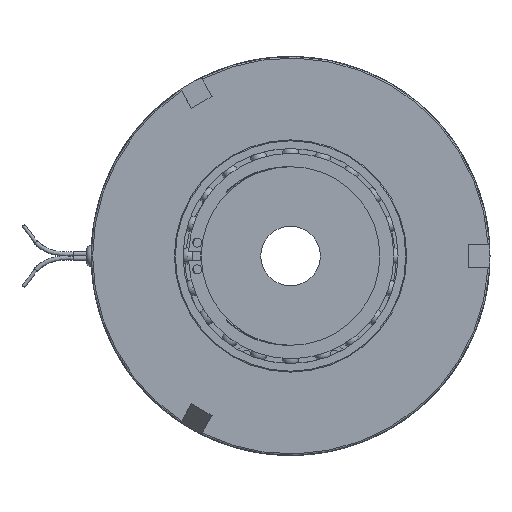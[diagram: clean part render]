
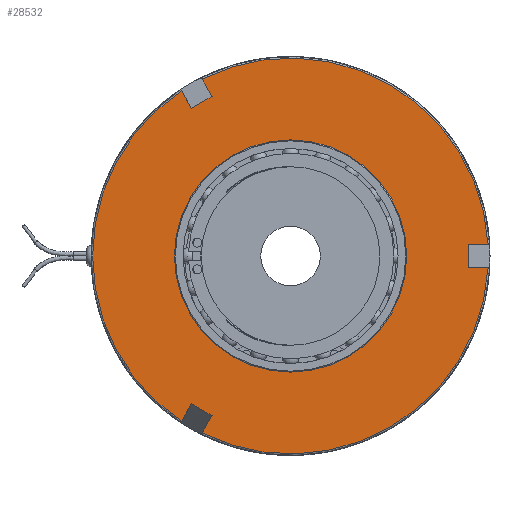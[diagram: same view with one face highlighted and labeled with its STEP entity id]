
A CAD part, left-side view. The second image highlights one B-rep face of the part: STEP entity #28532.
In plain terms, the highlighted planar face has unit normal (-1, 0, 0).
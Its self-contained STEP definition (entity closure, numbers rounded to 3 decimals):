
#2192=FACE_BOUND('',#5575,.T.);
#2351=PLANE('',#30444);
#3825=FACE_OUTER_BOUND('',#5574,.T.);
#5574=EDGE_LOOP('',(#20197,#20198,#20199,#20200,#20201,#20202,#20203,#20204,
#20205,#20206,#20207,#20208));
#5575=EDGE_LOOP('',(#20209));
#7377=CIRCLE('',#30445,66.5);
#7378=CIRCLE('',#30446,66.5);
#7379=CIRCLE('',#30447,66.5);
#7380=CIRCLE('',#30448,39.);
#8248=LINE('',#48403,#9782);
#8251=LINE('',#48422,#9785);
#8253=LINE('',#48426,#9787);
#8255=LINE('',#48442,#9789);
#8258=LINE('',#48461,#9792);
#8260=LINE('',#48465,#9794);
#8262=LINE('',#48483,#9796);
#8263=LINE('',#48485,#9797);
#8264=LINE('',#48487,#9798);
#9782=VECTOR('',#35455,6.744);
#9785=VECTOR('',#35462,8.);
#9787=VECTOR('',#35466,6.744);
#9789=VECTOR('',#35470,6.744);
#9792=VECTOR('',#35477,8.);
#9794=VECTOR('',#35481,6.744);
#9796=VECTOR('',#35489,6.744);
#9797=VECTOR('',#35490,8.);
#9798=VECTOR('',#35491,6.744);
#11822=VERTEX_POINT('',#48401);
#11823=VERTEX_POINT('',#48402);
#11827=VERTEX_POINT('',#48421);
#11828=VERTEX_POINT('',#48425);
#11830=VERTEX_POINT('',#48440);
#11831=VERTEX_POINT('',#48441);
#11835=VERTEX_POINT('',#48460);
#11836=VERTEX_POINT('',#48464);
#11838=VERTEX_POINT('',#48480);
#11839=VERTEX_POINT('',#48482);
#11840=VERTEX_POINT('',#48484);
#11841=VERTEX_POINT('',#48486);
#11842=VERTEX_POINT('',#48489);
#15070=EDGE_CURVE('',#11822,#11823,#8248,.T.);
#15075=EDGE_CURVE('',#11827,#11822,#8251,.T.);
#15077=EDGE_CURVE('',#11828,#11827,#8253,.T.);
#15080=EDGE_CURVE('',#11830,#11831,#8255,.T.);
#15085=EDGE_CURVE('',#11835,#11830,#8258,.T.);
#15087=EDGE_CURVE('',#11836,#11835,#8260,.T.);
#15090=EDGE_CURVE('',#11836,#11823,#7377,.T.);
#15091=EDGE_CURVE('',#11838,#11831,#7378,.T.);
#15092=EDGE_CURVE('',#11838,#11839,#8262,.T.);
#15093=EDGE_CURVE('',#11839,#11840,#8263,.T.);
#15094=EDGE_CURVE('',#11840,#11841,#8264,.T.);
#15095=EDGE_CURVE('',#11828,#11841,#7379,.T.);
#15096=EDGE_CURVE('',#11842,#11842,#7380,.T.);
#20197=ORIENTED_EDGE('',*,*,#15077,.T.);
#20198=ORIENTED_EDGE('',*,*,#15075,.T.);
#20199=ORIENTED_EDGE('',*,*,#15070,.T.);
#20200=ORIENTED_EDGE('',*,*,#15090,.F.);
#20201=ORIENTED_EDGE('',*,*,#15087,.T.);
#20202=ORIENTED_EDGE('',*,*,#15085,.T.);
#20203=ORIENTED_EDGE('',*,*,#15080,.T.);
#20204=ORIENTED_EDGE('',*,*,#15091,.F.);
#20205=ORIENTED_EDGE('',*,*,#15092,.T.);
#20206=ORIENTED_EDGE('',*,*,#15093,.T.);
#20207=ORIENTED_EDGE('',*,*,#15094,.T.);
#20208=ORIENTED_EDGE('',*,*,#15095,.F.);
#20209=ORIENTED_EDGE('',*,*,#15096,.T.);
#28532=ADVANCED_FACE('',(#3825,#2192),#2351,.T.);
#30444=AXIS2_PLACEMENT_3D('',#48478,#35483,#35484);
#30445=AXIS2_PLACEMENT_3D('',#48479,#35485,#35486);
#30446=AXIS2_PLACEMENT_3D('',#48481,#35487,#35488);
#30447=AXIS2_PLACEMENT_3D('',#48488,#35492,#35493);
#30448=AXIS2_PLACEMENT_3D('',#48490,#35494,#35495);
#35455=DIRECTION('',(0.,0.5,0.866));
#35462=DIRECTION('',(0.,0.866,-0.5));
#35466=DIRECTION('',(0.,-0.5,-0.866));
#35470=DIRECTION('',(0.,0.5,-0.866));
#35477=DIRECTION('',(0.,-0.866,-0.5));
#35481=DIRECTION('',(0.,-0.5,0.866));
#35483=DIRECTION('center_axis',(-1.,0.,0.));
#35484=DIRECTION('ref_axis',(0.,0.,1.));
#35485=DIRECTION('center_axis',(1.,0.,0.));
#35486=DIRECTION('ref_axis',(0.,1.,0.));
#35487=DIRECTION('center_axis',(1.,0.,0.));
#35488=DIRECTION('ref_axis',(0.,1.,0.));
#35489=DIRECTION('',(0.,1.,0.));
#35490=DIRECTION('',(0.,0.,1.));
#35491=DIRECTION('',(0.,-1.,0.));
#35492=DIRECTION('center_axis',(1.,0.,0.));
#35493=DIRECTION('ref_axis',(0.,1.,0.));
#35494=DIRECTION('center_axis',(1.,0.,0.));
#35495=DIRECTION('ref_axis',(0.,1.,0.));
#48401=CARTESIAN_POINT('',(-25.246,33.282,49.646));
#48402=CARTESIAN_POINT('',(-25.246,36.654,55.486));
#48403=CARTESIAN_POINT('',(-25.246,26.329,37.604));
#48421=CARTESIAN_POINT('',(-25.246,26.354,53.646));
#48422=CARTESIAN_POINT('',(-25.246,49.599,40.226));
#48425=CARTESIAN_POINT('',(-25.246,29.726,59.486));
#48426=CARTESIAN_POINT('',(-25.246,19.401,41.604));
#48440=CARTESIAN_POINT('',(-25.246,26.354,-53.646));
#48441=CARTESIAN_POINT('',(-25.246,29.726,-59.486));
#48442=CARTESIAN_POINT('',(-25.246,19.401,-41.604));
#48460=CARTESIAN_POINT('',(-25.246,33.282,-49.646));
#48461=CARTESIAN_POINT('',(-25.246,49.599,-40.226));
#48464=CARTESIAN_POINT('',(-25.246,36.654,-55.486));
#48465=CARTESIAN_POINT('',(-25.246,26.329,-37.604));
#48478=CARTESIAN_POINT('Origin',(-25.246,52.75,0.));
#48479=CARTESIAN_POINT('Origin',(-25.246,0.,
0.));
#48480=CARTESIAN_POINT('',(-25.246,-66.38,-4.));
#48481=CARTESIAN_POINT('Origin',(-25.246,0.,
0.));
#48482=CARTESIAN_POINT('',(-25.246,-59.636,-4.));
#48483=CARTESIAN_POINT('',(-25.246,-6.168,-4.));
#48484=CARTESIAN_POINT('',(-25.246,-59.636,4.));
#48485=CARTESIAN_POINT('',(-25.246,-59.636,0.));
#48486=CARTESIAN_POINT('',(-25.246,-66.38,4.));
#48487=CARTESIAN_POINT('',(-25.246,-6.168,4.));
#48488=CARTESIAN_POINT('Origin',(-25.246,0.,
0.));
#48489=CARTESIAN_POINT('',(-25.246,39.,0.));
#48490=CARTESIAN_POINT('Origin',(-25.246,0.,
0.));
